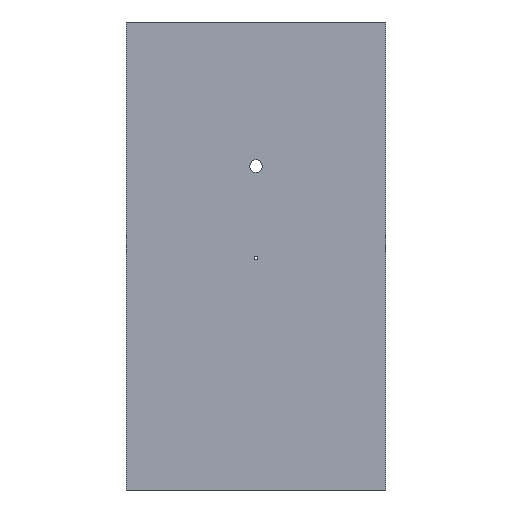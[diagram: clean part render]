
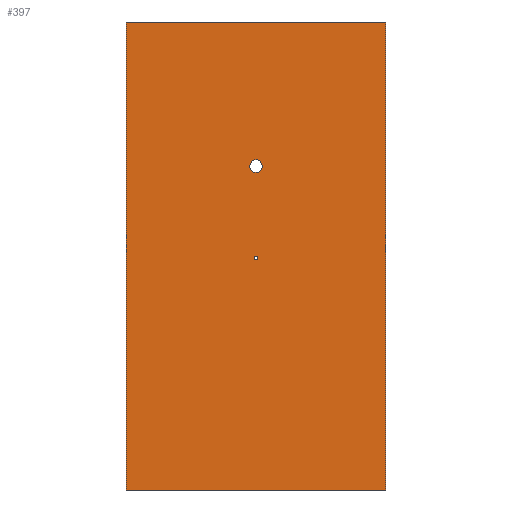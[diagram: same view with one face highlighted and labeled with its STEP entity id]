
A CAD part, left-side view. The second image highlights one B-rep face of the part: STEP entity #397.
In plain terms, the highlighted planar face has unit normal (-1, 0, 0).
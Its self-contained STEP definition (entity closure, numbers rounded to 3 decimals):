
#22 = VERTEX_POINT('',#23);
#23 = CARTESIAN_POINT('',(0.,0.,0.));
#32 = PLANE('',#33);
#33 = AXIS2_PLACEMENT_3D('',#34,#35,#36);
#34 = CARTESIAN_POINT('',(0.,0.,0.));
#35 = DIRECTION('',(0.,1.,0.));
#36 = DIRECTION('',(0.,0.,1.));
#44 = PLANE('',#45);
#45 = AXIS2_PLACEMENT_3D('',#46,#47,#48);
#46 = CARTESIAN_POINT('',(0.,0.,0.));
#47 = DIRECTION('',(0.,0.,1.));
#48 = DIRECTION('',(1.,0.,0.));
#56 = EDGE_CURVE('',#22,#57,#59,.T.);
#57 = VERTEX_POINT('',#58);
#58 = CARTESIAN_POINT('',(0.,0.,355.6));
#59 = SURFACE_CURVE('',#60,(#64,#71),.PCURVE_S1.);
#60 = LINE('',#61,#62);
#61 = CARTESIAN_POINT('',(0.,0.,0.));
#62 = VECTOR('',#63,1.);
#63 = DIRECTION('',(0.,0.,1.));
#64 = PCURVE('',#32,#65);
#65 = DEFINITIONAL_REPRESENTATION('',(#66),#70);
#66 = LINE('',#67,#68);
#67 = CARTESIAN_POINT('',(0.,0.));
#68 = VECTOR('',#69,1.);
#69 = DIRECTION('',(1.,0.));
#70 = ( GEOMETRIC_REPRESENTATION_CONTEXT(2) 
PARAMETRIC_REPRESENTATION_CONTEXT() REPRESENTATION_CONTEXT('2D SPACE',''
  ) );
#71 = PCURVE('',#72,#77);
#72 = PLANE('',#73);
#73 = AXIS2_PLACEMENT_3D('',#74,#75,#76);
#74 = CARTESIAN_POINT('',(0.,0.,0.));
#75 = DIRECTION('',(1.,0.,0.));
#76 = DIRECTION('',(0.,0.,1.));
#77 = DEFINITIONAL_REPRESENTATION('',(#78),#82);
#78 = LINE('',#79,#80);
#79 = CARTESIAN_POINT('',(0.,0.));
#80 = VECTOR('',#81,1.);
#81 = DIRECTION('',(1.,0.));
#82 = ( GEOMETRIC_REPRESENTATION_CONTEXT(2) 
PARAMETRIC_REPRESENTATION_CONTEXT() REPRESENTATION_CONTEXT('2D SPACE',''
  ) );
#100 = PLANE('',#101);
#101 = AXIS2_PLACEMENT_3D('',#102,#103,#104);
#102 = CARTESIAN_POINT('',(0.,0.,355.6));
#103 = DIRECTION('',(0.,0.,1.));
#104 = DIRECTION('',(1.,0.,0.));
#141 = EDGE_CURVE('',#22,#142,#144,.T.);
#142 = VERTEX_POINT('',#143);
#143 = CARTESIAN_POINT('',(0.,196.85,0.));
#144 = SURFACE_CURVE('',#145,(#149,#156),.PCURVE_S1.);
#145 = LINE('',#146,#147);
#146 = CARTESIAN_POINT('',(0.,0.,0.));
#147 = VECTOR('',#148,1.);
#148 = DIRECTION('',(0.,1.,0.));
#149 = PCURVE('',#44,#150);
#150 = DEFINITIONAL_REPRESENTATION('',(#151),#155);
#151 = LINE('',#152,#153);
#152 = CARTESIAN_POINT('',(0.,0.));
#153 = VECTOR('',#154,1.);
#154 = DIRECTION('',(0.,1.));
#155 = ( GEOMETRIC_REPRESENTATION_CONTEXT(2) 
PARAMETRIC_REPRESENTATION_CONTEXT() REPRESENTATION_CONTEXT('2D SPACE',''
  ) );
#156 = PCURVE('',#72,#157);
#157 = DEFINITIONAL_REPRESENTATION('',(#158),#162);
#158 = LINE('',#159,#160);
#159 = CARTESIAN_POINT('',(0.,0.));
#160 = VECTOR('',#161,1.);
#161 = DIRECTION('',(0.,-1.));
#162 = ( GEOMETRIC_REPRESENTATION_CONTEXT(2) 
PARAMETRIC_REPRESENTATION_CONTEXT() REPRESENTATION_CONTEXT('2D SPACE',''
  ) );
#202 = PLANE('',#203);
#203 = AXIS2_PLACEMENT_3D('',#204,#205,#206);
#204 = CARTESIAN_POINT('',(0.,196.85,0.));
#205 = DIRECTION('',(0.,1.,0.));
#206 = DIRECTION('',(0.,0.,1.));
#234 = CYLINDRICAL_SURFACE('',#235,1.191);
#235 = AXIS2_PLACEMENT_3D('',#236,#237,#238);
#236 = CARTESIAN_POINT('',(0.,98.425,176.213));
#237 = DIRECTION('',(1.,0.,0.));
#238 = DIRECTION('',(0.,0.,-1.));
#267 = CYLINDRICAL_SURFACE('',#268,4.76);
#268 = AXIS2_PLACEMENT_3D('',#269,#270,#271);
#269 = CARTESIAN_POINT('',(0.,98.42,246.063));
#270 = DIRECTION('',(1.,0.,0.));
#271 = DIRECTION('',(0.,0.,-1.));
#352 = EDGE_CURVE('',#57,#353,#355,.T.);
#353 = VERTEX_POINT('',#354);
#354 = CARTESIAN_POINT('',(0.,196.85,355.6));
#355 = SURFACE_CURVE('',#356,(#360,#367),.PCURVE_S1.);
#356 = LINE('',#357,#358);
#357 = CARTESIAN_POINT('',(0.,0.,355.6));
#358 = VECTOR('',#359,1.);
#359 = DIRECTION('',(0.,1.,0.));
#360 = PCURVE('',#100,#361);
#361 = DEFINITIONAL_REPRESENTATION('',(#362),#366);
#362 = LINE('',#363,#364);
#363 = CARTESIAN_POINT('',(0.,0.));
#364 = VECTOR('',#365,1.);
#365 = DIRECTION('',(0.,1.));
#366 = ( GEOMETRIC_REPRESENTATION_CONTEXT(2) 
PARAMETRIC_REPRESENTATION_CONTEXT() REPRESENTATION_CONTEXT('2D SPACE',''
  ) );
#367 = PCURVE('',#72,#368);
#368 = DEFINITIONAL_REPRESENTATION('',(#369),#373);
#369 = LINE('',#370,#371);
#370 = CARTESIAN_POINT('',(355.6,0.));
#371 = VECTOR('',#372,1.);
#372 = DIRECTION('',(0.,-1.));
#373 = ( GEOMETRIC_REPRESENTATION_CONTEXT(2) 
PARAMETRIC_REPRESENTATION_CONTEXT() REPRESENTATION_CONTEXT('2D SPACE',''
  ) );
#397 = ADVANCED_FACE('',(#398,#424,#450),#72,.F.);
#398 = FACE_BOUND('',#399,.F.);
#399 = EDGE_LOOP('',(#400));
#400 = ORIENTED_EDGE('',*,*,#401,.F.);
#401 = EDGE_CURVE('',#402,#402,#404,.T.);
#402 = VERTEX_POINT('',#403);
#403 = CARTESIAN_POINT('',(0.,98.425,175.022));
#404 = SURFACE_CURVE('',#405,(#410,#417),.PCURVE_S1.);
#405 = CIRCLE('',#406,1.191);
#406 = AXIS2_PLACEMENT_3D('',#407,#408,#409);
#407 = CARTESIAN_POINT('',(0.,98.425,176.213));
#408 = DIRECTION('',(1.,0.,0.));
#409 = DIRECTION('',(0.,0.,-1.));
#410 = PCURVE('',#72,#411);
#411 = DEFINITIONAL_REPRESENTATION('',(#412),#416);
#412 = CIRCLE('',#413,1.191);
#413 = AXIS2_PLACEMENT_2D('',#414,#415);
#414 = CARTESIAN_POINT('',(176.213,-98.425));
#415 = DIRECTION('',(-1.,0.));
#416 = ( GEOMETRIC_REPRESENTATION_CONTEXT(2) 
PARAMETRIC_REPRESENTATION_CONTEXT() REPRESENTATION_CONTEXT('2D SPACE',''
  ) );
#417 = PCURVE('',#234,#418);
#418 = DEFINITIONAL_REPRESENTATION('',(#419),#423);
#419 = LINE('',#420,#421);
#420 = CARTESIAN_POINT('',(0.,0.));
#421 = VECTOR('',#422,1.);
#422 = DIRECTION('',(1.,0.));
#423 = ( GEOMETRIC_REPRESENTATION_CONTEXT(2) 
PARAMETRIC_REPRESENTATION_CONTEXT() REPRESENTATION_CONTEXT('2D SPACE',''
  ) );
#424 = FACE_BOUND('',#425,.F.);
#425 = EDGE_LOOP('',(#426));
#426 = ORIENTED_EDGE('',*,*,#427,.F.);
#427 = EDGE_CURVE('',#428,#428,#430,.T.);
#428 = VERTEX_POINT('',#429);
#429 = CARTESIAN_POINT('',(0.,98.42,241.302));
#430 = SURFACE_CURVE('',#431,(#436,#443),.PCURVE_S1.);
#431 = CIRCLE('',#432,4.76);
#432 = AXIS2_PLACEMENT_3D('',#433,#434,#435);
#433 = CARTESIAN_POINT('',(0.,98.42,246.063));
#434 = DIRECTION('',(1.,0.,0.));
#435 = DIRECTION('',(0.,0.,-1.));
#436 = PCURVE('',#72,#437);
#437 = DEFINITIONAL_REPRESENTATION('',(#438),#442);
#438 = CIRCLE('',#439,4.76);
#439 = AXIS2_PLACEMENT_2D('',#440,#441);
#440 = CARTESIAN_POINT('',(246.063,-98.42));
#441 = DIRECTION('',(-1.,0.));
#442 = ( GEOMETRIC_REPRESENTATION_CONTEXT(2) 
PARAMETRIC_REPRESENTATION_CONTEXT() REPRESENTATION_CONTEXT('2D SPACE',''
  ) );
#443 = PCURVE('',#267,#444);
#444 = DEFINITIONAL_REPRESENTATION('',(#445),#449);
#445 = LINE('',#446,#447);
#446 = CARTESIAN_POINT('',(0.,0.));
#447 = VECTOR('',#448,1.);
#448 = DIRECTION('',(1.,0.));
#449 = ( GEOMETRIC_REPRESENTATION_CONTEXT(2) 
PARAMETRIC_REPRESENTATION_CONTEXT() REPRESENTATION_CONTEXT('2D SPACE',''
  ) );
#450 = FACE_BOUND('',#451,.F.);
#451 = EDGE_LOOP('',(#452,#453,#454,#475));
#452 = ORIENTED_EDGE('',*,*,#56,.F.);
#453 = ORIENTED_EDGE('',*,*,#141,.T.);
#454 = ORIENTED_EDGE('',*,*,#455,.T.);
#455 = EDGE_CURVE('',#142,#353,#456,.T.);
#456 = SURFACE_CURVE('',#457,(#461,#468),.PCURVE_S1.);
#457 = LINE('',#458,#459);
#458 = CARTESIAN_POINT('',(0.,196.85,0.));
#459 = VECTOR('',#460,1.);
#460 = DIRECTION('',(0.,0.,1.));
#461 = PCURVE('',#72,#462);
#462 = DEFINITIONAL_REPRESENTATION('',(#463),#467);
#463 = LINE('',#464,#465);
#464 = CARTESIAN_POINT('',(0.,-196.85));
#465 = VECTOR('',#466,1.);
#466 = DIRECTION('',(1.,0.));
#467 = ( GEOMETRIC_REPRESENTATION_CONTEXT(2) 
PARAMETRIC_REPRESENTATION_CONTEXT() REPRESENTATION_CONTEXT('2D SPACE',''
  ) );
#468 = PCURVE('',#202,#469);
#469 = DEFINITIONAL_REPRESENTATION('',(#470),#474);
#470 = LINE('',#471,#472);
#471 = CARTESIAN_POINT('',(0.,0.));
#472 = VECTOR('',#473,1.);
#473 = DIRECTION('',(1.,0.));
#474 = ( GEOMETRIC_REPRESENTATION_CONTEXT(2) 
PARAMETRIC_REPRESENTATION_CONTEXT() REPRESENTATION_CONTEXT('2D SPACE',''
  ) );
#475 = ORIENTED_EDGE('',*,*,#352,.F.);
